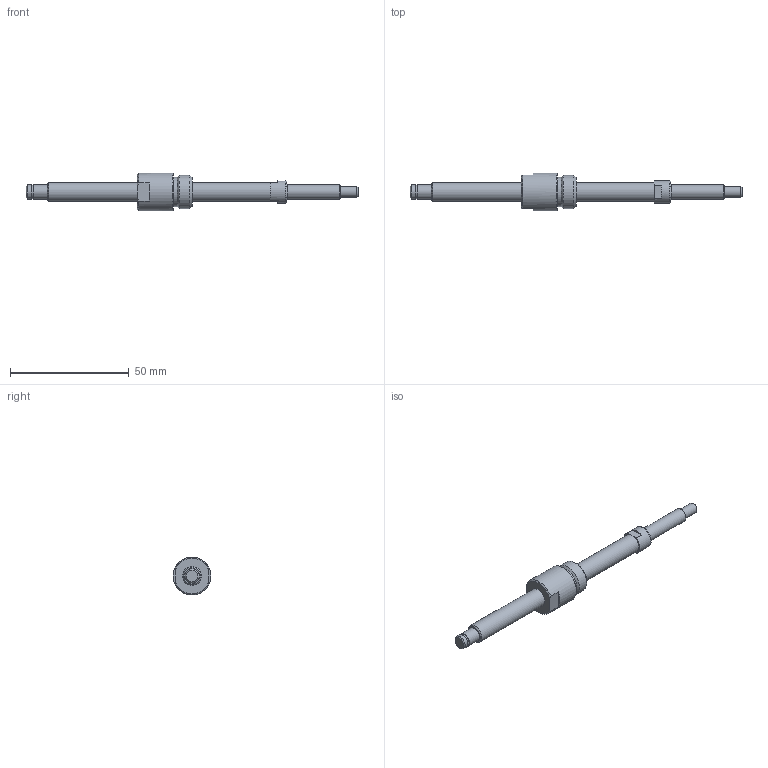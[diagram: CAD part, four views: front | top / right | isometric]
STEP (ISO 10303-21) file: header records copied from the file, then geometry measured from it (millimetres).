
FILE_DESCRIPTION(/* description */ ('STEP AP214'),/* implementation_level */ '2;1');
FILE_NAME(/* name */ 'NSG0802-090R140C5B0X(38)',/* time_stamp */ '2026-08-20T15:47:37+02:00',/* author */ ('License CC BY-ND 4.0'),/* organization */ ('CADENAS'),/* preprocessor_version */ 'ST-DEVELOPER v20',/* originating_system */ 'PARTsolutions',/* authorisation */ ' ');
FILE_SCHEMA (('AUTOMOTIVE_DESIGN {1 0 10303 214 3 1 1}'));
Length unit declared in the file: millimetre
Products named in the file (3): NSG0802-090R140C5B0X(38); NSG0802-90R140C3B_shaft; NSG0802_nut
Assembly tree (2 placements, depth 2):
  NSG0802-090R140C5B0X(38)
    NSG0802-90R140C3B_shaft
    NSG0802_nut
Bounding box: 140 x 16 x 16 mm (x, y, z)
Volume: 9142.6 mm3; surface area: 5360.3 mm2
Topology: 2 solids, 2 shells, 42 faces, 83 edges, 51 vertices
Faces by surface type: plane 20, cylinder 11, cone 10, torus 1
Full cylindrical faces by diameter (mm): 4.5 x1, 5.7 x1, 6 x3, 8 x2, 9.5 x1, 12.4 x1, 14 x1, 16 x1
Entity records: 1047 total; most frequent: DIRECTION 186, CARTESIAN_POINT 167, ORIENTED_EDGE 122, AXIS2_PLACEMENT_3D 84, EDGE_LOOP 70, FACE_BOUND 70, EDGE_CURVE 61, VERTEX_POINT 49
